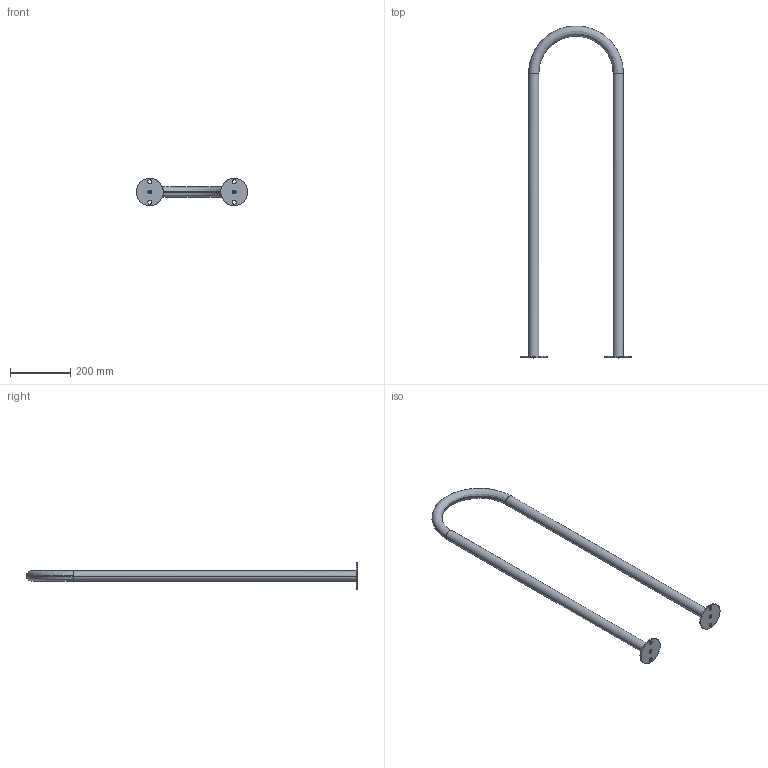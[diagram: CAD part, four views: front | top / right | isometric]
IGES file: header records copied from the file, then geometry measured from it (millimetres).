
Start section:  PTC IGES file: 100087-600.igs
Global section: file name: 100087-600.igs; native system: Creo Parametric by Parametric Technology Corporation; preprocessor: 2017170; author: stat; organization: Unknown; date: 20181127.084634; units: millimetre
Bounding box: 369.94 x 1099.82 x 90 mm (x, y, z)
Surface area: 488766.8 mm2 (no closed solid volume)
Topology: 0 solids, 0 shells, 34 faces, 152 edges, 152 vertices
Faces by surface type: revolution 28, bspline 6
